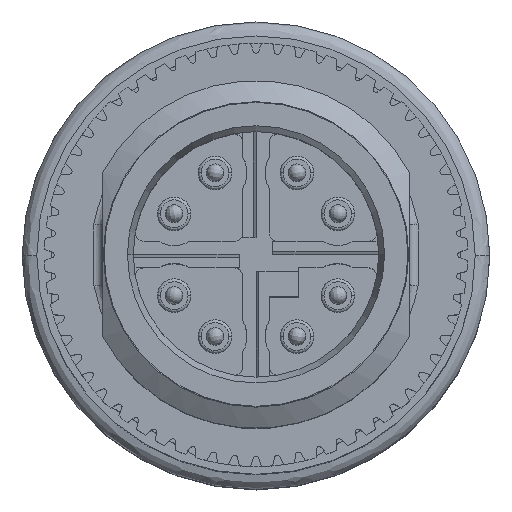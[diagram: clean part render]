
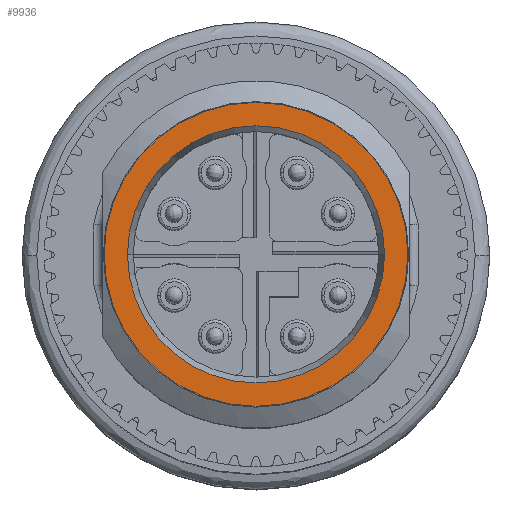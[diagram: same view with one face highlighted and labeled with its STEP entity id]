
A CAD part, top view. The second image highlights one B-rep face of the part: STEP entity #9936.
In plain terms, the highlighted planar face has unit normal (0, 0, 1).
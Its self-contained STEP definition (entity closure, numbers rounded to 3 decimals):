
#19 = ORIENTED_EDGE ( 'NONE', *, *, #807, .T. ) ;
#807 = EDGE_CURVE ( 'NONE', #16332, #5720, #5586, .T. ) ;
#1424 = CARTESIAN_POINT ( 'NONE',  ( 0., 0., 4.15 ) ) ;
#2373 = CIRCLE ( 'NONE', #10541, 5.2 ) ;
#2850 = EDGE_CURVE ( 'NONE', #10610, #8017, #15795, .T. ) ;
#3379 = AXIS2_PLACEMENT_3D ( 'NONE', #12370, #19338, #17634 ) ;
#4644 = DIRECTION ( 'NONE',  ( 0., 0., 1. ) ) ;
#5586 = CIRCLE ( 'NONE', #8336, 5.2 ) ;
#5662 = DIRECTION ( 'NONE',  ( 1., 0., 0. ) ) ;
#5720 = VERTEX_POINT ( 'NONE', #16927 ) ;
#5855 = PLANE ( 'NONE',  #3379 ) ;
#7273 = DIRECTION ( 'NONE',  ( 0., 0., -1. ) ) ;
#7614 = CARTESIAN_POINT ( 'NONE',  ( 4.4, 0., 4.15 ) ) ;
#7618 = DIRECTION ( 'NONE',  ( -1., 0., 0. ) ) ;
#7917 = DIRECTION ( 'NONE',  ( 0., 0., 1. ) ) ;
#8017 = VERTEX_POINT ( 'NONE', #12202 ) ;
#8336 = AXIS2_PLACEMENT_3D ( 'NONE', #17811, #4644, #7618 ) ;
#8752 = FACE_OUTER_BOUND ( 'NONE', #20315, .T. ) ;
#9936 = ADVANCED_FACE ( 'NONE', ( #20284, #8752 ), #5855, .T. ) ;
#10541 = AXIS2_PLACEMENT_3D ( 'NONE', #1424, #7917, #14464 ) ;
#10610 = VERTEX_POINT ( 'NONE', #7614 ) ;
#10801 = DIRECTION ( 'NONE',  ( 1., 0., 0. ) ) ;
#11428 = ORIENTED_EDGE ( 'NONE', *, *, #12392, .T. ) ;
#12202 = CARTESIAN_POINT ( 'NONE',  ( -4.4, 0., 4.15 ) ) ;
#12370 = CARTESIAN_POINT ( 'NONE',  ( 0., 4.2, 4.15 ) ) ;
#12392 = EDGE_CURVE ( 'NONE', #5720, #16332, #2373, .T. ) ;
#12541 = AXIS2_PLACEMENT_3D ( 'NONE', #13804, #7273, #5662 ) ;
#13268 = ORIENTED_EDGE ( 'NONE', *, *, #20099, .T. ) ;
#13804 = CARTESIAN_POINT ( 'NONE',  ( 0., 0., 4.15 ) ) ;
#14139 = CARTESIAN_POINT ( 'NONE',  ( 0., 0., 4.15 ) ) ;
#14464 = DIRECTION ( 'NONE',  ( -1., 0., 0. ) ) ;
#15795 = CIRCLE ( 'NONE', #20195, 4.4 ) ;
#16332 = VERTEX_POINT ( 'NONE', #16928 ) ;
#16648 = ORIENTED_EDGE ( 'NONE', *, *, #2850, .T. ) ;
#16927 = CARTESIAN_POINT ( 'NONE',  ( 5.2, 0., 4.15 ) ) ;
#16928 = CARTESIAN_POINT ( 'NONE',  ( -5.2, 0., 4.15 ) ) ;
#17634 = DIRECTION ( 'NONE',  ( 1., 0., 0. ) ) ;
#17811 = CARTESIAN_POINT ( 'NONE',  ( 0., 0., 4.15 ) ) ;
#19166 = DIRECTION ( 'NONE',  ( 0., 0., -1. ) ) ;
#19338 = DIRECTION ( 'NONE',  ( 0., 0., 1. ) ) ;
#19841 = EDGE_LOOP ( 'NONE', ( #16648, #13268 ) ) ;
#20099 = EDGE_CURVE ( 'NONE', #8017, #10610, #21083, .T. ) ;
#20195 = AXIS2_PLACEMENT_3D ( 'NONE', #14139, #19166, #10801 ) ;
#20284 = FACE_BOUND ( 'NONE', #19841, .T. ) ;
#20315 = EDGE_LOOP ( 'NONE', ( #19, #11428 ) ) ;
#21083 = CIRCLE ( 'NONE', #12541, 4.4 ) ;
